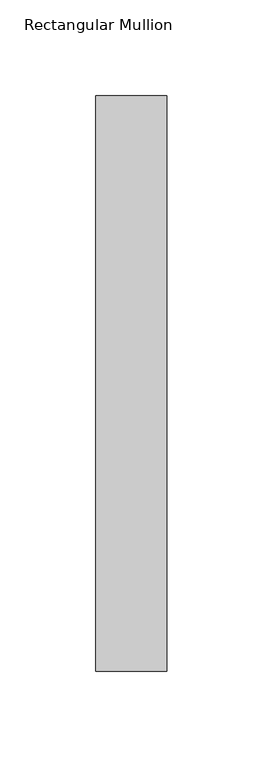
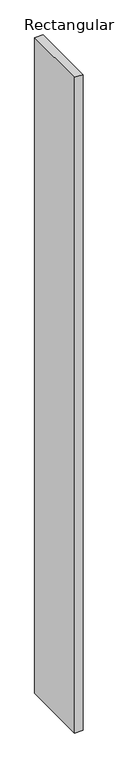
"""IFC4 building model written with IfcOpenShell, lengths in millimetres: member geometry, Rectangular Mullion : RSen_21_CWM_blade - cubic 300 - 0°_gen_duco projects."""

from ifc_helpers import new_model, si_unit, frame, origin, place, context, project, spatial, polyline, outline, extrude, source, transform, mapped, element, save


def rectangular_mullion_3524faa0(model_context):
    return source(origin(), model_context, "Body", "SweptSolid", [
        extrude(outline(polyline([(-18.5, 8.0), (-18.5, 308.0), (18.5, 308.0), (18.5, 8.0), (-18.5, 8.0)])), frame((0.0, 0.0, -3000.0), z_axis=(0.0, 0.0, 1.0), x_axis=(1.0, 0.0, 0.0)), (0.0, 0.0, 1.0), 3000.0),
    ])


if __name__ == "__main__":
    model = new_model("IFC4")
    model_context = context("Model", 3, world=origin())
    ifc_project = project(units=[si_unit("LENGTHUNIT", "METRE", prefix="MILLI")], contexts=[model_context])
    site = spatial("IfcSite", under=ifc_project)
    building = spatial("IfcBuilding", under=site)
    placement = place(None, origin())
    rectangular_mullion_shape = rectangular_mullion_3524faa0(model_context)
    element("IfcMember", 1, ObjectType="Rectangular Mullion : RSen_21_CWM_blade - cubic 300 - 0°_gen_duco projects", at=placement, inside=building, context=model_context, shape_type="MappedRepresentation", body=[
        mapped(rectangular_mullion_shape, transform((0.0, 0.0, 0.0), x_axis=(1.0, 0.0, 0.0), y_axis=(0.0, 1.0, 0.0), z_axis=(0.0, 0.0, 1.0))),
    ])
    save(model, "model.ifc")
